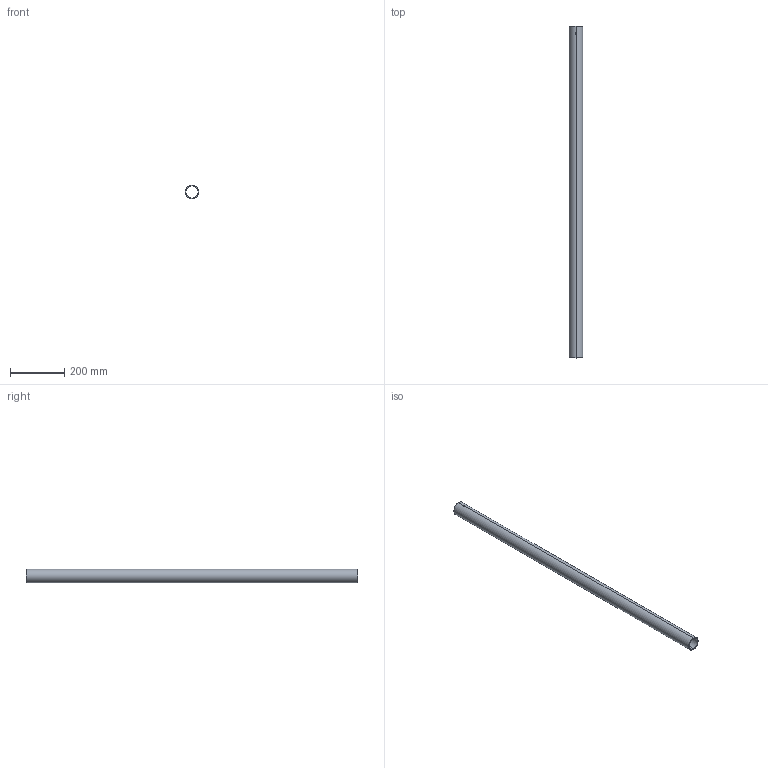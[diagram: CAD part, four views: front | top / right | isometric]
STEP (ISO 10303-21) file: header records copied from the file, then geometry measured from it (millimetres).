
FILE_DESCRIPTION (( 'STEP AP203' ), '1' );
FILE_NAME ('10-0504-00 REV 1, POLE, 2in OD x 4 FT.STEP', '2018-01-24T21:43:59', ( '' ), ( '' ), 'SwSTEP 2.0', 'SolidWorks 2012', '' );
FILE_SCHEMA (( 'CONFIG_CONTROL_DESIGN' ));
Length unit declared in the file: inch
Products named in the file (1): 10-0504-00 REV 1, POLE, 2in OD x 4 FT
Bounding box: 50.8 x 1219.2 x 50.8 mm (x, y, z)
Volume: 557368.1 mm3; surface area: 366708.1 mm2
Topology: 1 solids, 1 shells, 8 faces, 24 edges, 16 vertices
Faces by surface type: cylinder 6, plane 2
Entity records: 483 total; most frequent: CARTESIAN_POINT 185, ORIENTED_EDGE 48, DIRECTION 42, EDGE_CURVE 24, AXIS2_PLACEMENT_3D 17, VERTEX_POINT 16, EDGE_LOOP 10, FACE_OUTER_BOUND 8
